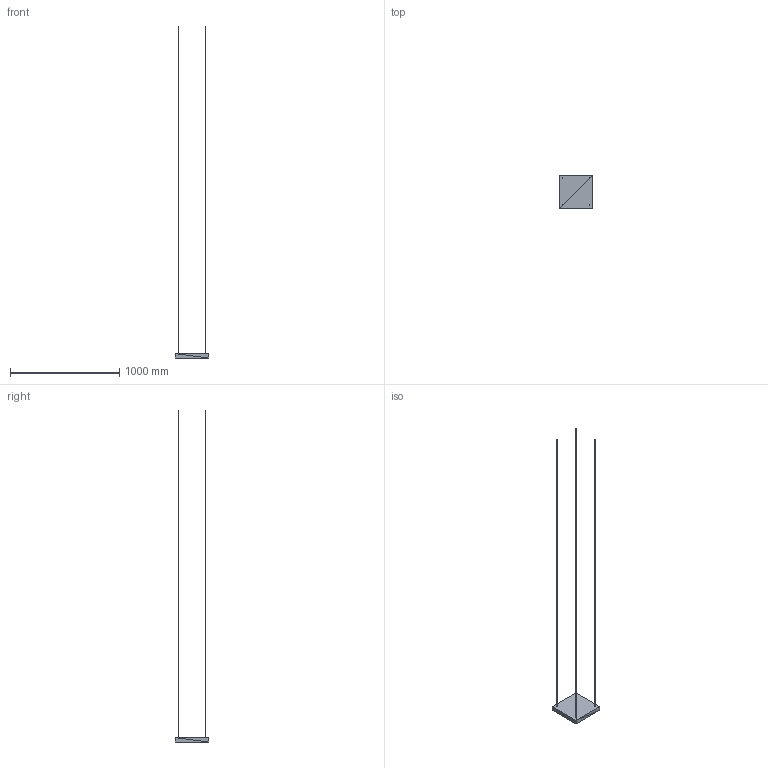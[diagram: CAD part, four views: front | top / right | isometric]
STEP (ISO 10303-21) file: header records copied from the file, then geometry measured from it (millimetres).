
FILE_DESCRIPTION(('ISINAC STEP AP214'),'2;1');
FILE_NAME('ISINAC_C.305_40mm_COLGADO','2026-05-03T10:49:19',('ISINAC'),('www.isinac.com'),'ISINAC BIM Generator 1.0','','');
FILE_SCHEMA(('AUTOMOTIVE_DESIGN'));
Length unit declared in the file: millimetre
Products named in the file (1): ISINAC_C.305_40mm_COLGADO
Bounding box: 305 x 305 x 3040 mm (x, y, z)
Surface area: 342896 mm2 (no closed solid volume)
Topology: 0 solids, 92 shells, 92 faces, 276 edges, 276 vertices
Faces by surface type: plane 92
Entity records: 1025 total; most frequent: CARTESIAN_POINT 368, DIRECTION 184, POLY_LOOP 92, FACE_OUTER_BOUND 92, AXIS2_PLACEMENT_3D 92, PLANE 92, FACE_SURFACE 92, CLOSED_SHELL 1
